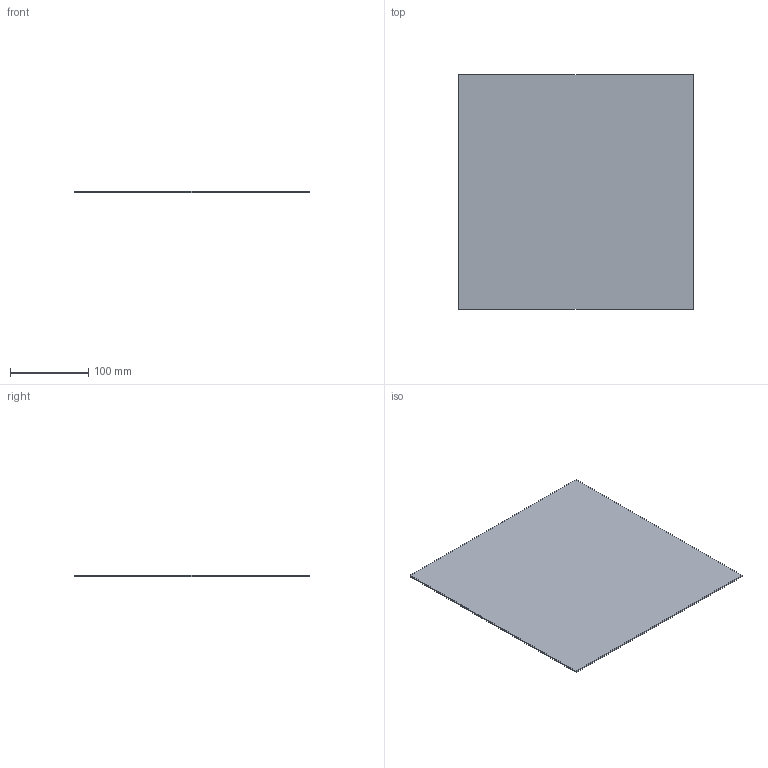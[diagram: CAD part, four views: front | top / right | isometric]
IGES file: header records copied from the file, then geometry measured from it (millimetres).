
Start section: SolidWorks IGES file using analytic representation for surfaces
Global section: file name: \\UTENTI\Dati Utenti\Tecnico\DC\2D - 3D per sito\3D superfici\DeCastelli-3D-DeErosion.igs; native system: SolidWorks 2022; preprocessor: SolidWorks 2022; author: Silviad; date: 240808.092916; units: millimetre
Bounding box: 300 x 300 x 2 mm (x, y, z)
Surface area: 182400 mm2 (no closed solid volume)
Topology: 0 solids, 0 shells, 6 faces, 24 edges, 24 vertices
Faces by surface type: bspline 6
